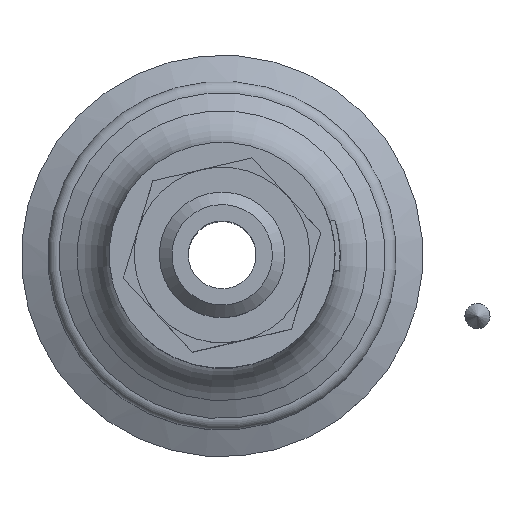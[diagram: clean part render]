
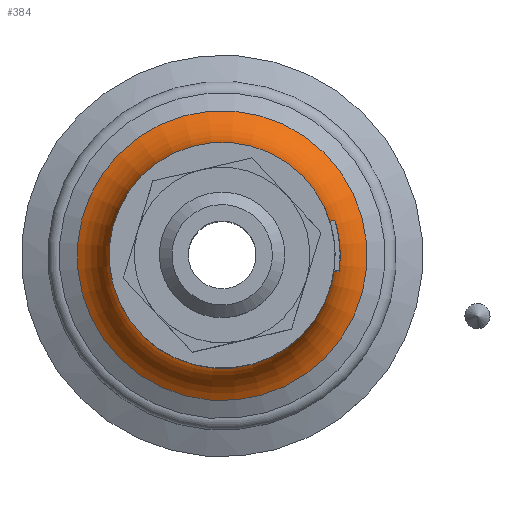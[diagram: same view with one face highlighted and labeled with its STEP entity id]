
A CAD part, top view. The second image highlights one B-rep face of the part: STEP entity #384.
In plain terms, the highlighted toroidal (fillet/blend) face has major radius 7 mm and minor radius 2.5 mm.
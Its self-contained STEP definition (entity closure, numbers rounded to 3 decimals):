
#384=ADVANCED_FACE('',(#779,#780),#781,.F.);
#779=FACE_OUTER_BOUND('',#1197,.T.);
#780=FACE_OUTER_BOUND('',#1198,.T.);
#781=TOROIDAL_SURFACE('',#1199,7.0,2.5);
#1197=EDGE_LOOP('',(#1916));
#1198=EDGE_LOOP('',(#1917));
#1199=AXIS2_PLACEMENT_3D('',#1918,#1919,#1920);
#1916=ORIENTED_EDGE('',*,*,#2420,.F.);
#1917=ORIENTED_EDGE('',*,*,#2512,.F.);
#1918=CARTESIAN_POINT('',(0.0,0.0,-7.563));
#1919=DIRECTION('',(0.0,0.0,1.0));
#1920=DIRECTION('',(1.0,0.0,0.0));
#2420=EDGE_CURVE('',#2781,#2781,#2782,.T.);
#2512=EDGE_CURVE('',#2929,#2929,#2930,.T.);
#2781=VERTEX_POINT('',#4076);
#2782=CIRCLE('',#4077,4.5);
#2929=VERTEX_POINT('',#4393);
#2930=CIRCLE('',#4394,5.774);
#4076=CARTESIAN_POINT('',(4.5,0.0,-7.563));
#4077=AXIS2_PLACEMENT_3D('',#4676,#4677,#4678);
#4393=CARTESIAN_POINT('',(-5.774,0.0,-9.742));
#4394=AXIS2_PLACEMENT_3D('',#4801,#4802,#4803);
#4676=CARTESIAN_POINT('',(0.0,0.0,-7.563));
#4677=DIRECTION('',(0.0,0.0,1.0));
#4678=DIRECTION('',(1.0,0.0,0.0));
#4801=CARTESIAN_POINT('',(0.0,0.0,-9.742));
#4802=DIRECTION('',(0.0,0.0,-1.0));
#4803=DIRECTION('',(-1.0,0.0,0.0));
